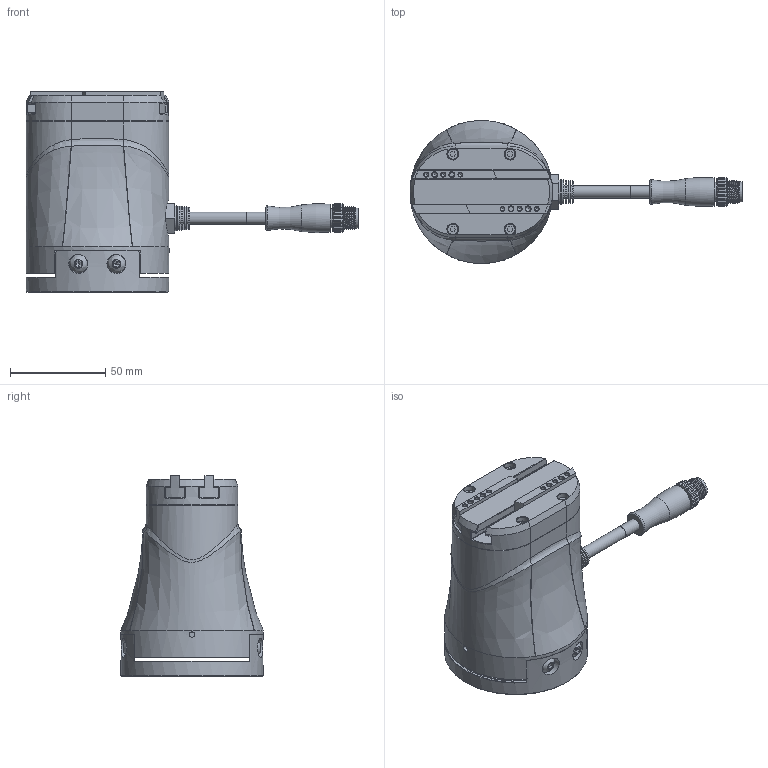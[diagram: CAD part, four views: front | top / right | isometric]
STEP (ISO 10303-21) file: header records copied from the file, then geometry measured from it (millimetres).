
FILE_DESCRIPTION (( 'STEP AP203' ), '1' );
FILE_NAME ('RG52-050-0PF-L200-C7-O-A-P54-S00.STEP', '2025-07-24T09:55:29', ( '' ), ( '' ), 'SwSTEP 2.0', 'SolidWorks 2024', '' );
FILE_SCHEMA (( 'CONFIG_CONTROL_DESIGN' ));
Length unit declared in the file: millimetre
Products named in the file (16): RG08010105盖板; hexagon socket button head screws gb1; RG06010202齿条; RG08010107手腕-无logo; RG08010105压铆后盖; RG06010201手掌; 零件3^RG52-050-0L#-C5024-P40-A00; RG02010006-导光柱-1; 后盖板机加工; 卡布斯M12-12芯线缆; M12-12芯公头线; RG04010003转换法兰; M12-12芯公头线缆-卡布斯; 装换法兰装配; RG52-050-0PF-L200-C7-O-A-P54-S00; GB／T70．1-2000内六角圆柱头螺钉M3×14-1
Assembly tree (21 placements, depth 3):
  零件3^RG52-050-0L#-C5024-P40-A00
  RG52-050-0PF-L200-C7-O-A-P54-S00
    RG06010201手掌
    RG06010202齿条  x2
    GB／T70．1-2000内六角圆柱头螺钉M3×14-1  x4
    RG02010006-导光柱-1
    装换法兰装配
      RG04010003转换法兰
      hexagon socket button head screws gb1  x4
    后盖板机加工
      RG08010107手腕-无logo
    RG08010105压铆后盖
      RG08010105盖板
    M12-12芯公头线缆-卡布斯
      卡布斯M12-12芯线缆
      M12-12芯公头线
Bounding box: 174.3 x 75 x 105.5 mm (x, y, z)
Volume: 371552 mm3; surface area: 76948.8 mm2
Topology: 17 solids, 21 shells, 661 faces, 1541 edges, 958 vertices
Faces by surface type: plane 321, cylinder 145, cone 111, bspline 58, torus 13, sphere 13
Full cylindrical faces by diameter (mm): 1 x12, 2.05 x6, 2.5 x6, 2.8 x3, 3 x4, 3.2 x4, 3.4 x1, 4.2 x4, 5 x6, 5.5 x4, 5.8 x4, 6 x1, 6.2 x1, 6.4 x9, 6.5 x1, 9.75 x1, 9.9 x1, 10 x4, 10.074 x1, 10.5 x1, 10.9 x1, 12 x1, 20 x1, 63 x1, 75 x2
Entity records: 25495 total; most frequent: CARTESIAN_POINT 12740, ORIENTED_EDGE 2174, DIRECTION 2106, EDGE_CURVE 1087, AXIS2_PLACEMENT_3D 866, VERTEX_POINT 722, EDGE_LOOP 711, FACE_OUTER_BOUND 607
